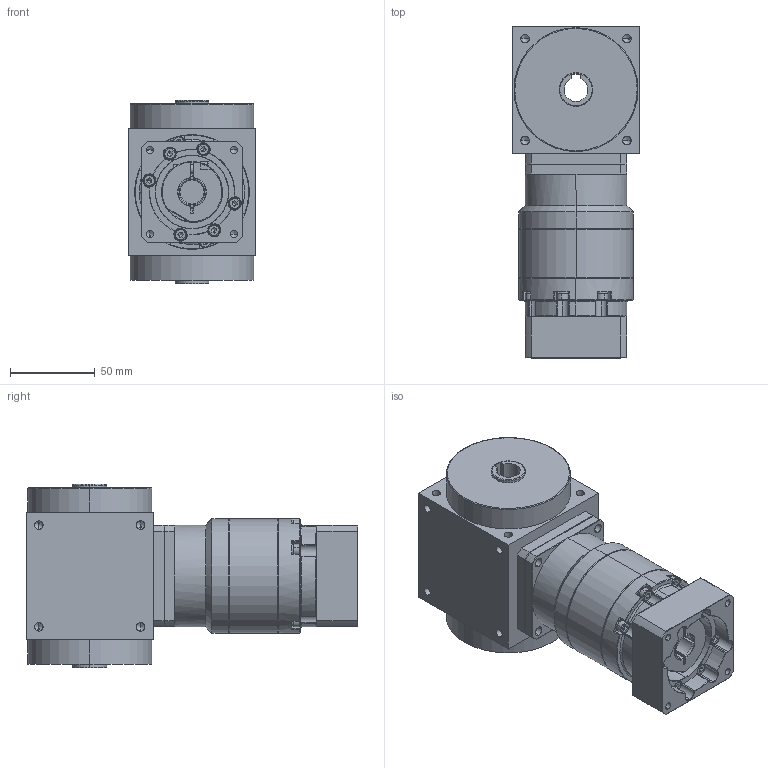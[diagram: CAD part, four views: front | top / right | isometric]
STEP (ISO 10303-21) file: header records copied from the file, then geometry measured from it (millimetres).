
FILE_DESCRIPTION (( 'STEP AP203' ), '1' );
FILE_NAME ('AT075-FH-L2 14-50-70-M5.STEP', '2024-12-24T09:17:53', ( '' ), ( '' ), 'SwSTEP 2.0', 'SolidWorks 2021', '' );
FILE_SCHEMA (( 'CONFIG_CONTROL_DESIGN' ));
Length unit declared in the file: millimetre
Products named in the file (3): AT075-FH-L2 14-50-70-M5; VRB-060-L2-S2-P1 14-50-70-M5; AT075-FH
Assembly tree (2 placements, depth 2):
  AT075-FH-L2 14-50-70-M5
    AT075-FH
    VRB-060-L2-S2-P1 14-50-70-M5
Bounding box: 75 x 195.5 x 108 mm (x, y, z)
Volume: 808153.4 mm3; surface area: 125754.5 mm2
Topology: 33 solids, 33 shells, 1108 faces, 2773 edges, 1689 vertices
Faces by surface type: cylinder 411, plane 395, cone 236, torus 54, bspline 12
Entity records: 34390 total; most frequent: CARTESIAN_POINT 7986, DIRECTION 5694, ORIENTED_EDGE 5370, EDGE_CURVE 2685, AXIS2_PLACEMENT_3D 2254, VERTEX_POINT 1689, EDGE_LOOP 1224, LINE 1186
